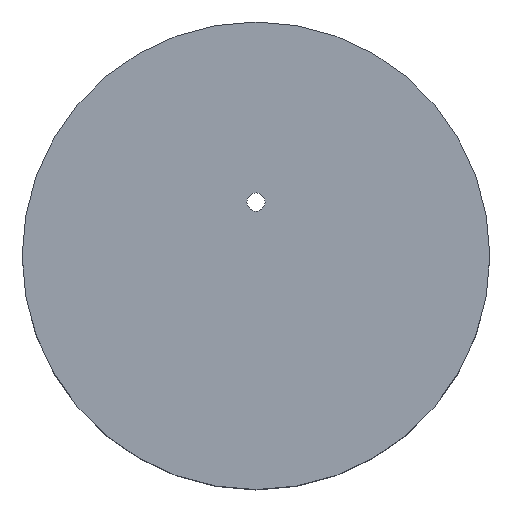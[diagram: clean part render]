
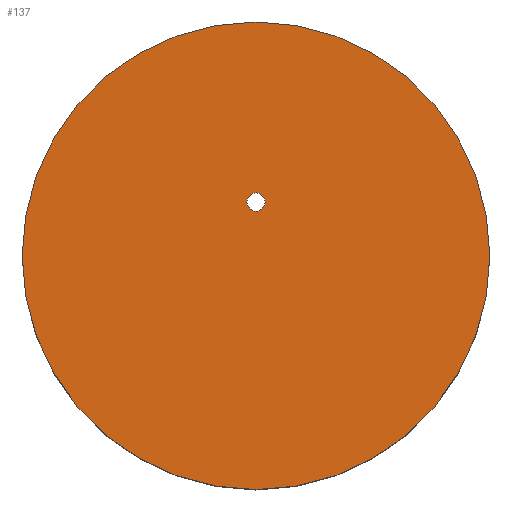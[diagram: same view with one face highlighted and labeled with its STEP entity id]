
A CAD part, top view. The second image highlights one B-rep face of the part: STEP entity #137.
In plain terms, the highlighted planar face has unit normal (0, 0, 1).
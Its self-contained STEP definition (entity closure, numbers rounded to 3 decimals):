
#78=CARTESIAN_POINT('',(21.75,0.,1.6));
#79=VERTEX_POINT('',#78);
#86=CARTESIAN_POINT('',(0.,0.,1.6));
#87=DIRECTION('',(1.,0.,0.));
#88=DIRECTION('',(0.,0.,1.));
#89=AXIS2_PLACEMENT_3D('',#86,#88,#87);
#90=CIRCLE('',#89,21.75);
#91=EDGE_CURVE('',#79,#79,#90,.T.);
#118=CARTESIAN_POINT('',(0.,0.,1.6));
#119=DIRECTION('',(1.,0.,0.));
#120=DIRECTION('',(0.,0.,-1.));
#121=AXIS2_PLACEMENT_3D('',#118,#120,#119);
#122=PLANE('',#121);
#123=ORIENTED_EDGE('',*,*,#91,.F.);
#124=EDGE_LOOP('',(#123));
#125=FACE_OUTER_BOUND('',#124,.F.);
#126=CARTESIAN_POINT('',(0.85,5.,1.6));
#127=VERTEX_POINT('',#126);
#128=CARTESIAN_POINT('',(0.,5.,1.6));
#129=DIRECTION('',(1.,0.,0.));
#130=DIRECTION('',(0.,0.,-1.));
#131=AXIS2_PLACEMENT_3D('',#128,#130,#129);
#132=CIRCLE('',#131,0.85);
#133=EDGE_CURVE('',#127,#127,#132,.T.);
#134=ORIENTED_EDGE('E8',*,*,#133,.F.);
#135=EDGE_LOOP('',(#134));
#136=FACE_BOUND('',#135,.F.);
#137=ADVANCED_FACE('F5',(#125,#136),#122,.F.);
